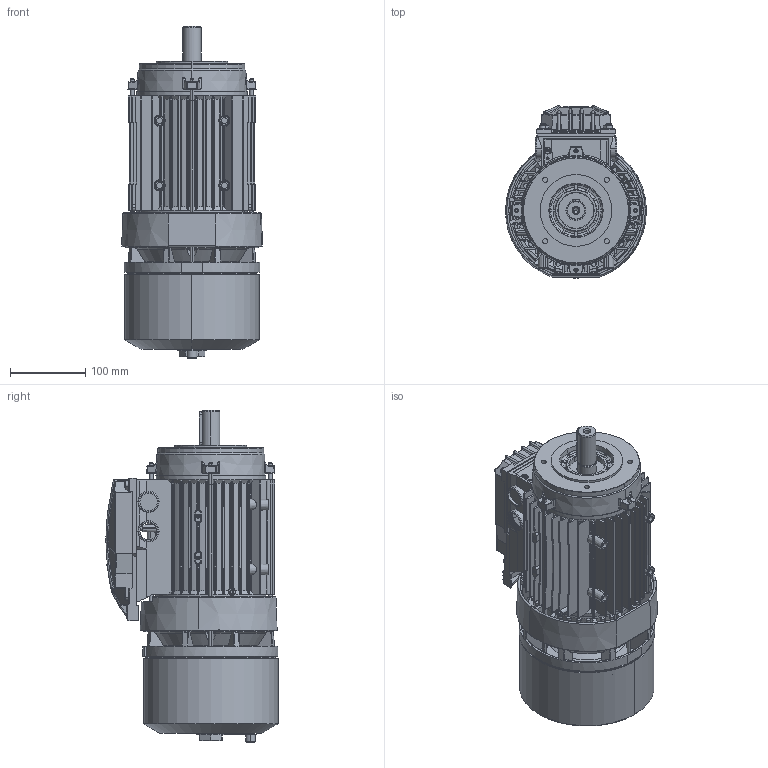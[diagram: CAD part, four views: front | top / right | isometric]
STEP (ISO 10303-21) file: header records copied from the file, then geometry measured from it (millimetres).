
FILE_DESCRIPTION (( 'STEP AP214' ), '1' );
FILE_NAME ('M02FC0016.STEP', '2024-09-27T12:37:28', ( '' ), ( '' ), 'SwSTEP 2.0', 'SolidWorks 2023', '' );
FILE_SCHEMA (( 'AUTOMOTIVE_DESIGN' ));
Length unit declared in the file: millimetre
Products named in the file (14): Albero BA 90 L; Scudo a flangia B14 BA-BM 90 - DDAC0094; Cuffia serie BA 90; Carcassa 90 L B5 - DI; Vite per coperchio morsettiera; Coperchio 100-112 DI; Scudo lato freno BA 90 P1 - DI_Soluzione 2; Guarnizione Coperchio scatola 100-112 DI; Chiavetta 90; Tirante BA 90L - DBA60094; M02FC0016; Assieme coperchio scatola DI 100-112; Vite a Testa Esagona con foro e tappo 71-112 - Modificata; Convogliatore con pista d''attrito P2 BA 90 - DDAF0195
Assembly tree (19 placements, depth 3):
  M02FC0016
    Carcassa 90 L B5 - DI
    Scudo lato freno BA 90 P1 - DI_Soluzione 2
    Albero BA 90 L
    Chiavetta 90
    Convogliatore con pista d''attrito P2 BA 90 - DDAF0195
    Tirante BA 90L - DBA60094  x4
    Assieme coperchio scatola DI 100-112
      Coperchio 100-112 DI
      Guarnizione Coperchio scatola 100-112 DI
      Vite per coperchio morsettiera  x4
    Scudo a flangia B14 BA-BM 90 - DDAC0094
    Cuffia serie BA 90
    Vite a Testa Esagona con foro e tappo 71-112 - Modificata
Bounding box: 186.96 x 228.19 x 440.18 mm (x, y, z)
Volume: 1731721.2 mm3; surface area: 977429.6 mm2
Topology: 22 solids, 22 shells, 4216 faces, 11236 edges, 7074 vertices
Faces by surface type: plane 1692, cylinder 1022, bspline 574, cone 485, torus 412, sphere 31
Entity records: 185719 total; most frequent: CARTESIAN_POINT 73429, ORIENTED_EDGE 21132, DIRECTION 17324, EDGE_CURVE 10566, VERTEX_POINT 6736, AXIS2_PLACEMENT_3D 6293, VECTOR 4738, LINE 4738
